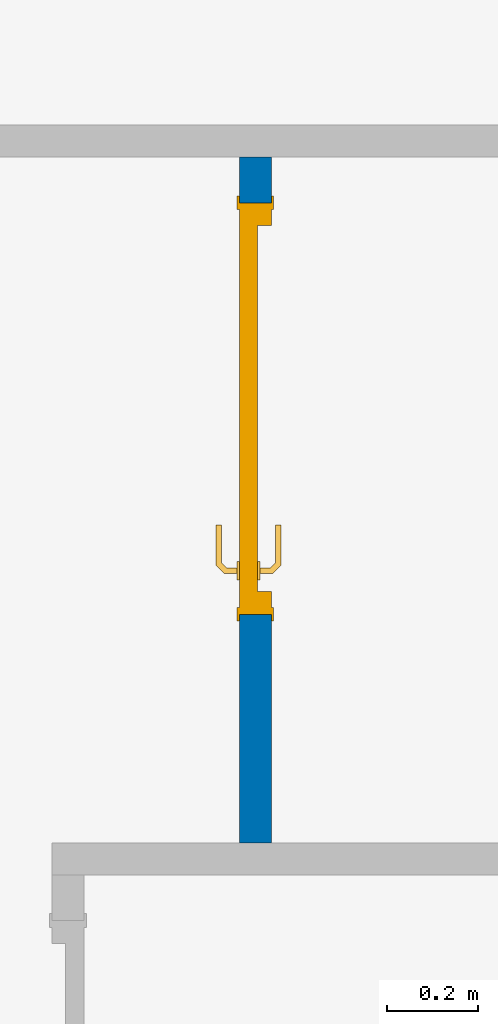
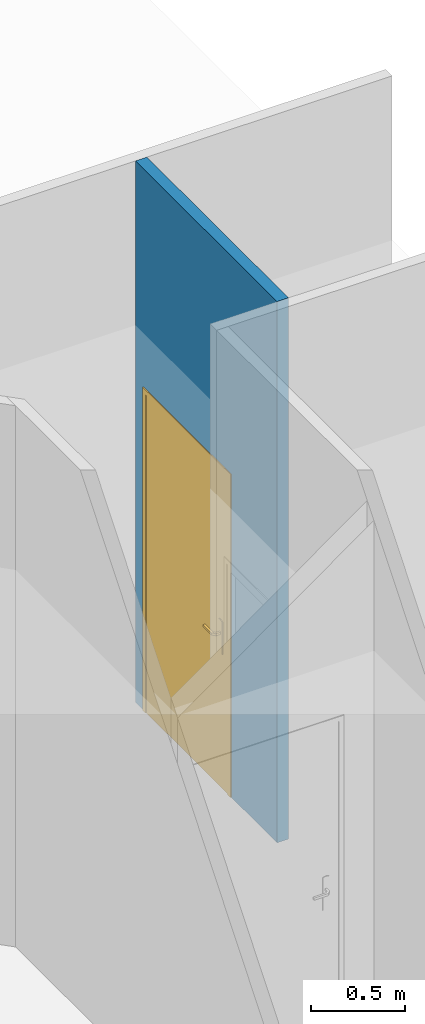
# One storey, part 3 of 7: 1 door, 1 wall, 1 opening.
"""IFC2X3 building model written with IfcOpenShell, lengths in centimetres."""

from ifc_helpers import new_model, entity, si_unit, converted_unit, derived_unit, direction, frame, frame_2d, origin, place, context, subcontext, project, spatial, rectangle, extrude, faceted_brep, source, transform, mapped, material, material_list, layer, layer_set, layer_usage, type_object, type_shapes, element, fill, save


model = new_model("IFC2X3")

# Units and contexts
model_context = context("Model", 3, precision=0.001, world=origin(), true_north=direction((6.123031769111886e-17, 1.0)))
body_context = subcontext(model_context, "Body", "Model", "MODEL_VIEW")
ifc_project = project(units=[si_unit("LENGTHUNIT", "METRE", prefix="CENTI"), si_unit("AREAUNIT", "SQUARE_METRE"), si_unit("VOLUMEUNIT", "CUBIC_METRE"), converted_unit("PLANEANGLEUNIT", "DEGREE", entity("IfcRatioMeasure", 0.017453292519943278), si_unit("PLANEANGLEUNIT", "RADIAN"), dimensions=[0, 0, 0, 0, 0, 0, 0]), si_unit("MASSUNIT", "GRAM", prefix="KILO"), derived_unit("MASSDENSITYUNIT", [(si_unit("MASSUNIT", "GRAM", prefix="KILO"), 1), (si_unit("LENGTHUNIT", "METRE"), -3)]), derived_unit("MOMENTOFINERTIAUNIT", [(si_unit("LENGTHUNIT", "METRE"), 4)]), si_unit("TIMEUNIT", "SECOND"), si_unit("FREQUENCYUNIT", "HERTZ"), si_unit("THERMODYNAMICTEMPERATUREUNIT", "DEGREE_CELSIUS"), derived_unit("THERMALTRANSMITTANCEUNIT", [(si_unit("MASSUNIT", "GRAM", prefix="KILO"), 1), (si_unit("THERMODYNAMICTEMPERATUREUNIT", "KELVIN"), -1), (si_unit("TIMEUNIT", "SECOND"), -3)]), derived_unit("THERMALCONDUCTANCEUNIT", [(si_unit("MASSUNIT", "GRAM", prefix="KILO"), 1), (si_unit("LENGTHUNIT", "METRE"), 1), (si_unit("THERMODYNAMICTEMPERATUREUNIT", "KELVIN"), -1), (si_unit("TIMEUNIT", "SECOND"), -3)]), derived_unit("VOLUMETRICFLOWRATEUNIT", [(si_unit("LENGTHUNIT", "METRE"), 3), (si_unit("TIMEUNIT", "SECOND"), -1)]), derived_unit("MASSFLOWRATEUNIT", [(si_unit("MASSUNIT", "GRAM", prefix="KILO"), 1), (si_unit("TIMEUNIT", "SECOND"), -1)]), derived_unit("ROTATIONALFREQUENCYUNIT", [(si_unit("TIMEUNIT", "SECOND"), -1)]), si_unit("ELECTRICCURRENTUNIT", "AMPERE"), si_unit("ELECTRICVOLTAGEUNIT", "VOLT"), si_unit("POWERUNIT", "WATT"), si_unit("FORCEUNIT", "NEWTON", prefix="KILO"), si_unit("ILLUMINANCEUNIT", "LUX"), si_unit("LUMINOUSFLUXUNIT", "LUMEN"), si_unit("LUMINOUSINTENSITYUNIT", "CANDELA"), derived_unit("USERDEFINED", [(si_unit("MASSUNIT", "GRAM", prefix="KILO"), -1), (si_unit("LENGTHUNIT", "METRE"), -2), (si_unit("TIMEUNIT", "SECOND"), 3), (si_unit("LUMINOUSFLUXUNIT", "LUMEN"), 1)]), derived_unit("USERDEFINED", [(si_unit("MASSUNIT", "GRAM", prefix="KILO"), 1), (si_unit("LENGTHUNIT", "METRE"), 3), (si_unit("TIMEUNIT", "SECOND"), -3), (si_unit("ELECTRICCURRENTUNIT", "AMPERE"), -2)]), derived_unit("USERDEFINED", [(si_unit("LENGTHUNIT", "METRE"), 2), (si_unit("TIMEUNIT", "SECOND"), -2)]), derived_unit("SOUNDPOWERUNIT", [(si_unit("MASSUNIT", "GRAM", prefix="KILO"), 1), (si_unit("LENGTHUNIT", "METRE"), 2), (si_unit("TIMEUNIT", "SECOND"), -3)]), derived_unit("SOUNDPRESSUREUNIT", [(si_unit("MASSUNIT", "GRAM", prefix="KILO"), 1), (si_unit("LENGTHUNIT", "METRE"), -1), (si_unit("TIMEUNIT", "SECOND"), -2)]), derived_unit("LINEARVELOCITYUNIT", [(si_unit("LENGTHUNIT", "METRE"), 1), (si_unit("TIMEUNIT", "SECOND"), -1)]), si_unit("PRESSUREUNIT", "PASCAL"), derived_unit("USERDEFINED", [(si_unit("LENGTHUNIT", "METRE"), -2), (si_unit("MASSUNIT", "GRAM", prefix="KILO"), 1), (si_unit("TIMEUNIT", "SECOND"), -2)]), derived_unit("LINEARFORCEUNIT", [(si_unit("MASSUNIT", "GRAM", prefix="KILO"), 1), (si_unit("LENGTHUNIT", "METRE"), 1), (si_unit("TIMEUNIT", "SECOND"), -2), (si_unit("LENGTHUNIT", "METRE"), -1)]), derived_unit("PLANARFORCEUNIT", [(si_unit("MASSUNIT", "GRAM", prefix="KILO"), 1), (si_unit("LENGTHUNIT", "METRE"), 1), (si_unit("TIMEUNIT", "SECOND"), -2), (si_unit("LENGTHUNIT", "METRE"), -2)]), derived_unit("SPECIFICHEATCAPACITYUNIT", [(si_unit("LENGTHUNIT", "METRE"), 2), (si_unit("TIMEUNIT", "SECOND"), -2), (si_unit("THERMODYNAMICTEMPERATUREUNIT", "KELVIN"), -1)]), derived_unit("VAPORPERMEABILITYUNIT", [(si_unit("TIMEUNIT", "SECOND"), 1), (si_unit("LENGTHUNIT", "METRE"), -1)]), derived_unit("DYNAMICVISCOSITYUNIT", [(si_unit("MASSUNIT", "GRAM", prefix="KILO"), 1), (si_unit("LENGTHUNIT", "METRE"), -1), (si_unit("TIMEUNIT", "SECOND"), -1)]), derived_unit("THERMALEXPANSIONCOEFFICIENTUNIT", [(si_unit("THERMODYNAMICTEMPERATUREUNIT", "KELVIN"), -1)])], contexts=[model_context])

# Site, building, storey
site_placement = place(None, origin())
site = spatial("IfcSite", under=ifc_project, at=site_placement, Name="Default", CompositionType="ELEMENT")
building_placement = place(site_placement, origin())
building = spatial("IfcBuilding", under=site, at=building_placement, CompositionType="ELEMENT")
storey_placement = place(building_placement, origin())
storey = spatial("IfcBuildingStorey", under=building, at=storey_placement, Name="1_Rez-de-chaussée", CompositionType="ELEMENT", Elevation=0.0)

# Wall, opening, door
ifc_material_1 = material(Name="Mur par défaut")
ifc_layer = layer(ifc_material_1, 7.0)
ifc_layer_set = layer_set([ifc_layer], Name="Mur de base:Int. plâtre 70 mm")
ifc_layer_usage = layer_usage(ifc_layer_set, "AXIS2", "NEGATIVE", 3.4999999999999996)
wall_type = type_object("IfcWallType", Name="Mur de base:Int. plâtre 70 mm", PredefinedType="STANDARD", material=ifc_layer_set)
wall_placement = place(storey_placement, frame((228.4315562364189, 5.6466458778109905, 0.0), z_axis=(0.0, 0.0, 1.0), x_axis=(0.0, -1.0, 0.0)))
wall = element("IfcWallStandardCase", 1, at=wall_placement, inside=storey, type_object=wall_type, material=ifc_layer_usage, Name="Mur de base:Int. plâtre 70 mm", ObjectType="Mur de base:Int. plâtre 70 mm", context=body_context, shape_type="SweptSolid", body=[
    extrude(rectangle(XDim=150.00000000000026, YDim=7.000000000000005, at=frame_2d((75.00000000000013, -1.5987211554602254e-14), x_axis=(1.0, 0.0))), origin(), (0.0, 0.0, 1.0), 350.0),
])
opening_placement = place(wall_placement, frame((100.0, 3.499999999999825, 0.0)))
opening = element("IfcOpeningElement", 2, at=opening_placement, cuts=wall, Name="Int. Simple:PP (0.83m x 2.04m):1", ObjectType="Opening", context=body_context, shape_type="SweptSolid", body=[
    extrude(rectangle(XDim=207.49999999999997, YDim=90.0, at=frame_2d((103.74999999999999, 45.0), x_axis=(1.0, 0.0))), frame((0.0, 0.0, 0.0), z_axis=(0.0, -1.0, 0.0), x_axis=(0.0, 0.0, 1.0)), (0.0, 0.0, 1.0), 6.999999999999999),
])
ifc_material_2 = material(Name="Finition Peinture - Blanc satiné")
ifc_material_3 = material(Name="Bois - Panneau de porte")
ifc_material_4 = material(Name="Bois - Cadre de porte")
ifc_material_list = material_list([ifc_material_2, ifc_material_3, ifc_material_4])
door_style = type_object("IfcDoorStyle", Name="Int. Simple:PP (0.83m x 2.04m)", ConstructionType="NOTDEFINED", OperationType="NOTDEFINED", ParameterTakesPrecedence=False, Sizeable=False, material=ifc_material_list)
shared_shape = source(origin(), body_context, "Body", "Brep", [
    faceted_brep([(89.50000000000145, -0.5000000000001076, 87.0), (89.50000000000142, -0.5000000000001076, 108.0), (88.53527618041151, -0.5000000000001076, 108.39960169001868), (87.50000000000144, -0.5000000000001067, 108.5358983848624), (86.46472381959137, -0.5000000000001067, 108.39960169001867), (85.5000000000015, -0.5000000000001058, 108.0), (85.50000000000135, -0.5000000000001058, 87.0), (86.46472381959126, -0.5000000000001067, 86.6003983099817), (87.50000000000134, -0.5000000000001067, 86.46410161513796), (88.5352761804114, -0.5000000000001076, 86.6003983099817), (89.50000000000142, 0.0, 108.0), (89.5000000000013, 0.0, 87.0), (88.5352761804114, 0.0, 86.6003983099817), (87.50000000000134, 0.0, 86.46410161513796), (86.46472381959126, 0.0, 86.6003983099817), (85.50000000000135, 0.0, 87.0), (85.50000000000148, 0.0, 108.0), (86.46472381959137, 0.0, 108.39960169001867), (87.50000000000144, 0.0, 108.5358983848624), (88.53527618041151, 0.0, 108.39960169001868)], [[[0, 1, 2, 3, 4, 5, 6, 7, 8, 9]], [[10, 11, 12, 13, 14, 15, 16, 17, 18, 19]], [[9, 12, 11, 0]], [[8, 13, 12, 9]], [[7, 14, 13, 8]], [[7, 6, 15, 14]], [[15, 6, 5, 16]], [[4, 17, 16, 5]], [[3, 18, 17, 4]], [[2, 19, 18, 3]], [[2, 1, 10, 19]], [[11, 10, 1, 0]]]),
    faceted_brep([(89.50000000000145, 4.0, 87.0), (89.50000000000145, 4.0, 108.0), (88.53527618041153, 4.0, 108.39960169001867), (87.50000000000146, 4.0, 108.5358983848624), (86.4647238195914, 4.0, 108.39960169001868), (85.50000000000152, 4.0, 108.0), (85.50000000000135, 4.0, 87.0), (86.46472381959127, 4.0, 86.6003983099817), (87.50000000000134, 4.0, 86.46410161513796), (88.5352761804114, 4.0, 86.60039830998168), (87.50000000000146, 4.499999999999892, 108.5358983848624), (88.53527618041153, 4.499999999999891, 108.39960169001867), (89.50000000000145, 4.499999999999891, 108.0), (89.5000000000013, 4.499999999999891, 87.0), (88.5352761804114, 4.499999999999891, 86.60039830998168), (87.50000000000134, 4.499999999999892, 86.46410161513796), (86.46472381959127, 4.4999999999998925, 86.6003983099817), (85.50000000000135, 4.4999999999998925, 87.0), (85.5000000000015, 4.4999999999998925, 108.0), (86.4647238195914, 4.4999999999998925, 108.39960169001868)], [[[0, 1, 2, 3, 4, 5, 6, 7, 8, 9]], [[10, 11, 12, 13, 14, 15, 16, 17, 18, 19]], [[4, 19, 18, 5]], [[3, 10, 19, 4]], [[2, 11, 10, 3]], [[2, 1, 12, 11]], [[13, 12, 1, 0]], [[9, 14, 13, 0]], [[8, 15, 14, 9]], [[7, 16, 15, 8]], [[7, 6, 17, 16]], [[17, 6, 5, 18]]]),
    faceted_brep([(87.2974701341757, -0.5000000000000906, 100.77804408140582), (87.7025298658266, -0.5000000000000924, 100.77804408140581), (88.1000000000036, -0.500000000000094, 100.69999999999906), (88.10000000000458, -0.500000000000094, 99.29999999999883), (87.70252986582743, -0.5000000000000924, 99.221955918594), (87.2974701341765, -0.5000000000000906, 99.22195591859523), (86.89999999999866, -0.5000000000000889, 99.30000000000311), (86.89999999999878, -0.5000000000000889, 100.69999999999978), (87.70252986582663, -3.100457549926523, 100.77804408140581), (88.10000000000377, -3.265095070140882, 100.69999999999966), (87.29747013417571, -2.932676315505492, 100.77804408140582), (85.92986024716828, -4.300286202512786, 100.77804408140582), (86.09764148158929, -4.705345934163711, 100.77804408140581), (86.89999999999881, -2.768038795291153, 100.69999999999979), (86.89999999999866, -2.7680387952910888, 99.30000000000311), (87.2974701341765, -2.93267631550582, 99.22195591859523), (87.70252986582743, -3.1004575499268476, 99.221955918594), (86.09764148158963, -4.7053459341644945, 99.221955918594), (85.92986024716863, -4.300286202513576, 99.22195591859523), (88.10000000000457, -3.2650950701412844, 99.29999999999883), (86.26227900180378, -5.102816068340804, 100.69999999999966), (85.76522272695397, -3.902816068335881, 100.69999999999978), (85.76522272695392, -3.902816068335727, 99.30000000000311), (86.26227900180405, -5.102816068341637, 99.29999999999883), (77.49813593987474, -5.102816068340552, 100.6999999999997), (77.49813593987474, -4.705345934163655, 100.77804408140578), (77.49813593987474, -4.30028620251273, 100.7780440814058), (77.49813593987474, -3.902816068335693, 100.69999999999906), (77.49813593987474, -3.902816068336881, 99.30000000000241), (77.49813593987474, -4.300286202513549, 99.2219559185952), (77.49813593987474, -4.705345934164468, 99.22195591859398), (77.49813593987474, -5.1028160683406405, 99.29999999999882), (81.71399809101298, -4.502816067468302, 100.7878686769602), (82.26923027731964, -5.102816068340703, 100.69999999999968), (81.63167933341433, -3.902816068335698, 100.6999999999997), (81.63167933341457, -3.902816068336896, 99.30000000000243), (81.71399811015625, -4.502816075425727, 99.21213132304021), (82.26923104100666, -5.102816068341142, 99.29999999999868)], [[[0, 1, 2, 3, 4, 5, 6, 7]], [[2, 1, 8, 9]], [[1, 0, 10, 11, 12, 8]], [[0, 7, 13, 10]], [[14, 13, 7, 6]], [[5, 15, 14, 6]], [[5, 4, 16, 17, 18, 15]], [[3, 19, 16, 4]], [[9, 19, 3, 2]], [[9, 8, 12, 20]], [[10, 13, 21, 11]], [[22, 21, 13, 14]], [[14, 15, 18, 22]], [[16, 19, 23, 17]], [[20, 23, 19, 9]], [[24, 25, 26, 27, 28, 29, 30, 31]], [[32, 25, 33]], [[33, 25, 24]], [[33, 20, 12]], [[11, 34, 32]], [[34, 11, 21]], [[27, 26, 34]], [[32, 26, 25]], [[32, 34, 26]], [[32, 33, 12]], [[11, 32, 12]], [[21, 22, 35, 28, 27, 34]], [[36, 29, 35]], [[30, 36, 37]], [[18, 35, 22]], [[29, 28, 35]], [[30, 37, 31]], [[37, 17, 23]], [[36, 17, 37]], [[36, 18, 17]], [[36, 35, 18]], [[29, 36, 30]], [[23, 20, 33, 24, 31, 37]]]),
    faceted_brep([(87.29747013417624, 4.499999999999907, 99.22195591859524), (87.70252986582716, 4.499999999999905, 99.22195591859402), (88.1000000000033, 4.499999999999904, 99.29999999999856), (88.10000000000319, 4.499999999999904, 100.69999999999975), (87.70252986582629, 4.499999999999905, 100.77804408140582), (87.29747013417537, 4.499999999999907, 100.77804408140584), (86.89999999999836, 4.499999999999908, 100.69999999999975), (86.89999999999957, 4.499999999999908, 99.30000000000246), (86.89999999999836, 6.748520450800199, 100.69999999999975), (86.89999999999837, 6.748520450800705, 99.30000000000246), (87.29747013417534, 6.913157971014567, 100.77804408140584), (87.70252986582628, 7.0809392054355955, 100.77804408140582), (86.08389061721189, 8.69957845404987, 100.77804408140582), (85.91610938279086, 8.294518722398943, 100.77804408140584), (88.10000000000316, 7.245576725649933, 100.69999999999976), (88.1000000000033, 7.245576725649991, 99.29999999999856), (87.70252986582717, 7.080939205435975, 99.22195591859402), (87.29747013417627, 6.91315797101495, 99.22195591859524), (85.91610938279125, 8.29451872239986, 99.22195591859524), (86.08389061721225, 8.699578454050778, 99.22195591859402), (85.75147186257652, 7.897048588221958, 100.69999999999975), (85.75147186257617, 7.897048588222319, 99.30000000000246), (86.2485281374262, 9.097048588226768, 100.69999999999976), (86.24852813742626, 9.09704858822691, 99.29999999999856), (77.49542163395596, 8.294518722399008, 100.77804408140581), (77.49542163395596, 8.699578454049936, 100.7780440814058), (77.49542163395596, 9.097048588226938, 100.69999999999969), (77.49542163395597, 9.097048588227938, 99.29999999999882), (77.49542163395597, 8.699578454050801, 99.22195591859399), (77.49542163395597, 8.29451872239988, 99.22195591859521), (77.49542163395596, 7.897048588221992, 99.30000000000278), (77.49542163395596, 7.8970485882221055, 100.69999999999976), (81.62344674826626, 7.897048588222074, 100.69999999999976), (81.62344794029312, 7.89704858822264, 99.3000000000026), (81.70576551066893, 8.497048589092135, 100.78786867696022), (82.25547942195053, 9.097048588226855, 100.69999999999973), (82.25547956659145, 9.097048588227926, 99.29999999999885), (81.70576548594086, 8.497048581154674, 99.21213132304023)], [[[0, 1, 2, 3, 4, 5, 6, 7]], [[8, 9, 7, 6]], [[5, 10, 8, 6]], [[5, 4, 11, 12, 13, 10]], [[3, 14, 11, 4]], [[14, 3, 2, 15]], [[2, 1, 16, 15]], [[1, 0, 17, 18, 19, 16]], [[0, 7, 9, 17]], [[20, 21, 9, 8]], [[8, 10, 13, 20]], [[14, 22, 12, 11]], [[23, 22, 14, 15]], [[15, 16, 19, 23]], [[17, 9, 21, 18]], [[24, 25, 26, 27, 28, 29, 30, 31]], [[21, 20, 32, 31, 30, 33]], [[34, 24, 32]], [[25, 34, 35]], [[13, 32, 20]], [[24, 31, 32]], [[25, 35, 26]], [[35, 12, 22]], [[34, 12, 35]], [[34, 13, 12]], [[34, 32, 13]], [[24, 34, 25]], [[22, 23, 36, 27, 26, 35]], [[37, 28, 36]], [[36, 28, 27]], [[36, 23, 19]], [[18, 33, 37]], [[33, 18, 21]], [[30, 29, 33]], [[37, 29, 28]], [[37, 33, 29]], [[37, 36, 19]], [[18, 37, 19]]]),
    faceted_brep([(93.50000000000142, 4.0, 204.0), (93.50000000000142, 4.0, 0.0), (10.500000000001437, 4.0, 0.0), (10.50000000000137, 4.0, 204.0), (93.50000000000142, 0.0, 204.0), (10.50000000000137, 0.0, 204.0), (10.500000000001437, 0.0, 0.0), (93.50000000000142, 0.0, 0.0)], [[[0, 1, 2, 3]], [[4, 5, 6, 7]], [[3, 5, 4, 0]], [[2, 6, 5, 3]], [[1, 7, 6, 2]], [[0, 4, 7, 1]]]),
    faceted_brep([(97.0, 0.0, 0.0), (93.50000000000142, 0.0, 0.0), (93.50000000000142, 4.0, 0.0), (92.0, 4.0, 0.0), (92.0, 7.0, 0.0), (97.0, 7.0, 0.0), (97.0, 7.0, 207.5000000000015), (97.0, 0.0, 207.50000000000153), (92.0, 7.0, 202.4999999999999), (12.0, 7.0, 202.4999999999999), (12.0, 7.0, 0.0), (7.0, 7.0, 0.0), (7.0, 7.0, 207.5000000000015), (92.0, 4.0, 202.4999999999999), (93.50000000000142, 4.0, 204.0), (10.500000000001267, 4.0, 204.0), (10.50000000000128, 4.0, 0.0), (12.0, 4.0, 0.0), (12.0, 4.0, 202.4999999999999), (93.5000000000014, 0.0, 204.0), (7.0, 0.0, 207.50000000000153), (7.0, 0.0, 0.0), (10.500000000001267, 0.0, 0.0), (10.500000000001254, 0.0, 204.0)], [[[0, 1, 2, 3, 4, 5]], [[5, 6, 7, 0]], [[4, 8, 9, 10, 11, 12, 6, 5]], [[3, 13, 8, 4]], [[2, 14, 15, 16, 17, 18, 13, 3]], [[1, 19, 14, 2]], [[0, 7, 20, 21, 22, 23, 19, 1]], [[12, 11, 21, 20]], [[21, 11, 10, 17, 16, 22]], [[18, 17, 10, 9]], [[23, 22, 16, 15]], [[6, 12, 20, 7]], [[13, 18, 9, 8]], [[19, 23, 15, 14]]]),
    faceted_brep([(95.5000000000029, 7.0, 0.0), (95.5000000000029, 7.499999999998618, 0.0), (98.50000000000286, 7.499999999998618, 0.0), (98.50000000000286, 7.0, 0.0), (98.50000000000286, 7.0, 209.0), (5.5000000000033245, 7.0, 209.0), (5.5000000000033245, 7.0, 0.0), (8.500000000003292, 7.0, 0.0), (8.500000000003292, 7.0, 206.0), (95.5000000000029, 7.0, 206.0), (98.50000000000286, 7.499999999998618, 209.0), (95.5000000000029, 7.499999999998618, 206.0), (8.500000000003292, 7.499999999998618, 206.0), (8.500000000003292, 7.499999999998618, 0.0), (5.5000000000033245, 7.499999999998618, 0.0), (5.5000000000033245, 7.499999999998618, 209.0)], [[[0, 1, 2, 3]], [[3, 4, 5, 6, 7, 8, 9, 0]], [[2, 10, 4, 3]], [[1, 11, 12, 13, 14, 15, 10, 2]], [[0, 9, 11, 1]], [[7, 6, 14, 13]], [[8, 7, 13, 12]], [[15, 14, 6, 5]], [[10, 15, 5, 4]], [[9, 8, 12, 11]]]),
    faceted_brep([(98.50000000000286, -0.5000000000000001, 0.0), (98.50000000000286, -0.5000000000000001, 209.0), (5.5000000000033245, -0.5000000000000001, 209.0), (5.5000000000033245, -0.5000000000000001, 0.0), (8.500000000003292, -0.5000000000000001, 0.0), (8.500000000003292, -0.5000000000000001, 206.0), (95.5000000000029, -0.5000000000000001, 206.0), (95.5000000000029, -0.5000000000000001, 0.0), (98.50000000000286, 0.0, 0.0), (98.50000000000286, 0.0, 209.0), (95.5000000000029, 0.0, 0.0), (95.5000000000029, 0.0, 206.0), (8.500000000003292, 0.0, 206.0), (8.500000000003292, 0.0, 0.0), (5.5000000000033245, 0.0, 0.0), (5.5000000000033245, 0.0, 209.0)], [[[0, 1, 2, 3, 4, 5, 6, 7]], [[8, 9, 1, 0]], [[10, 11, 12, 13, 14, 15, 9, 8]], [[7, 6, 11, 10]], [[5, 4, 13, 12]], [[15, 14, 3, 2]], [[9, 15, 2, 1]], [[6, 5, 12, 11]], [[4, 3, 14, 13]], [[7, 10, 8, 0]]]),
])
type_shapes(door_style, [shared_shape])
door_placement = place(opening_placement, frame((-97.0, -7.0, 0.0)))
door = element("IfcDoor", 3, at=door_placement, inside=storey, type_object=door_style, material=ifc_material_list, Name="Int. Simple:PP (0.83m x 2.04m)", ObjectType="Int. Simple:PP (0.83m x 2.04m)", OverallHeight=207.49999999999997, OverallWidth=90.00000000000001, context=body_context, shape_type="MappedRepresentation", body=[
    mapped(shared_shape, transform((0.0, 0.0, 0.0), scale=1.0)),
])
fill(opening, door)

save(model, "model.ifc")
